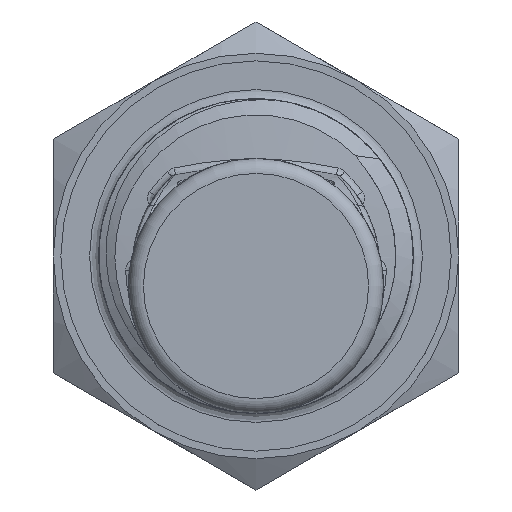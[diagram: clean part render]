
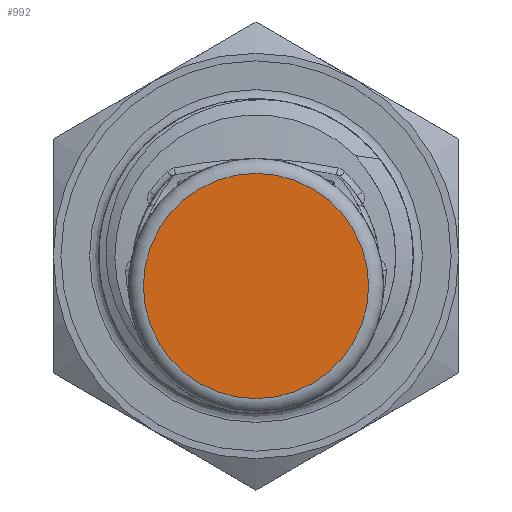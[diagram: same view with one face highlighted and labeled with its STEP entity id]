
A CAD part, left-side view. The second image highlights one B-rep face of the part: STEP entity #992.
In plain terms, the highlighted planar face has unit normal (-1, 0, 0).
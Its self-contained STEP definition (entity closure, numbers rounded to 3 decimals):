
#435=FACE_OUTER_BOUND('',#2413,.T.);
#992=ADVANCED_FACE('',(#435),#1377,.T.);
#1377=PLANE('',#7647);
#1535=CIRCLE('',#7646,7.5);
#2413=EDGE_LOOP('',(#3348));
#3348=ORIENTED_EDGE('',*,*,#5931,.T.);
#5141=VERTEX_POINT('',#12125);
#5931=EDGE_CURVE('',#5141,#5141,#1535,.T.);
#7646=AXIS2_PLACEMENT_3D('',#12124,#8538,#8539);
#7647=AXIS2_PLACEMENT_3D('',#12126,#8540,#8541);
#8538=DIRECTION('',(-1.,0.,0.));
#8539=DIRECTION('',(0.,0.,1.));
#8540=DIRECTION('',(-1.,0.,0.));
#8541=DIRECTION('',(0.,0.,1.));
#12124=CARTESIAN_POINT('',(-48.5,0.,-2.));
#12125=CARTESIAN_POINT('',(-48.5,0.,5.5));
#12126=CARTESIAN_POINT('',(-48.5,0.,-2.));
